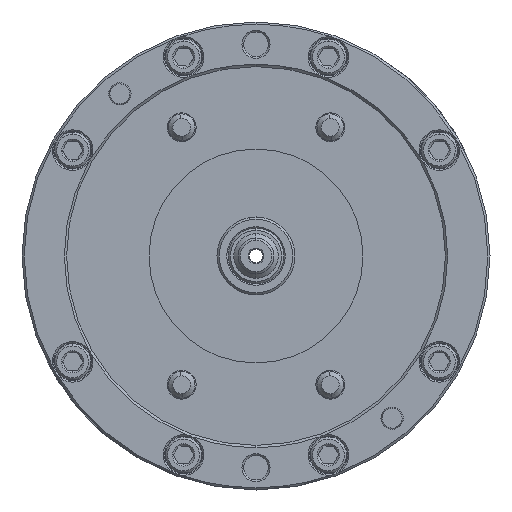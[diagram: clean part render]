
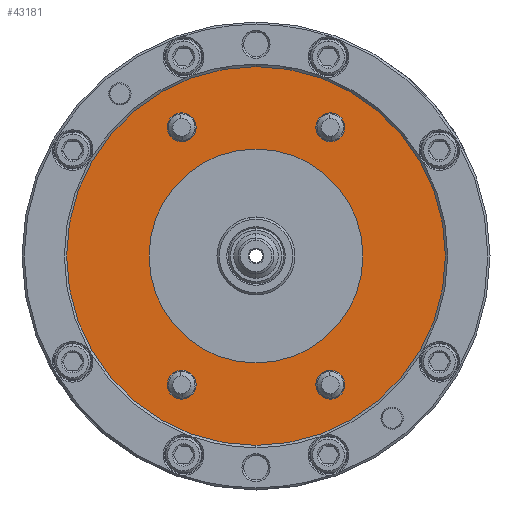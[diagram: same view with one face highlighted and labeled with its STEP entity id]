
A CAD part, left-side view. The second image highlights one B-rep face of the part: STEP entity #43181.
In plain terms, the highlighted planar face has unit normal (-1, 0, 0).
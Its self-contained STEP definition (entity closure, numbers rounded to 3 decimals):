
#607 = VERTEX_POINT ( 'NONE', #16837 ) ;
#1141 = CIRCLE ( 'NONE', #48762, 85. ) ;
#1155 = CIRCLE ( 'NONE', #9351, 6.5 ) ;
#1261 = EDGE_CURVE ( 'NONE', #33225, #3951, #21262, .T. ) ;
#1563 = CIRCLE ( 'NONE', #13519, 48. ) ;
#1982 = CIRCLE ( 'NONE', #25655, 6.5 ) ;
#2062 = EDGE_CURVE ( 'NONE', #3951, #33225, #15250, .T. ) ;
#2246 = ORIENTED_EDGE ( 'NONE', *, *, #1261, .T. ) ;
#2604 = DIRECTION ( 'NONE',  ( 0., 0., -1. ) ) ;
#3081 = CIRCLE ( 'NONE', #36701, 6.5 ) ;
#3915 = EDGE_LOOP ( 'NONE', ( #4488, #2246 ) ) ;
#3951 = VERTEX_POINT ( 'NONE', #26855 ) ;
#4043 = DIRECTION ( 'NONE',  ( 0., 0., -1. ) ) ;
#4315 = CARTESIAN_POINT ( 'NONE',  ( -115., 0., 0. ) ) ;
#4453 = VERTEX_POINT ( 'NONE', #27852 ) ;
#4488 = ORIENTED_EDGE ( 'NONE', *, *, #2062, .T. ) ;
#4805 = DIRECTION ( 'NONE',  ( 1., 0., 0. ) ) ;
#5188 = EDGE_CURVE ( 'NONE', #32202, #46140, #48760, .T. ) ;
#5518 = ORIENTED_EDGE ( 'NONE', *, *, #42587, .F. ) ;
#5922 = DIRECTION ( 'NONE',  ( 0., 0., 1. ) ) ;
#5981 = DIRECTION ( 'NONE',  ( 1., 0., 0. ) ) ;
#6230 = CARTESIAN_POINT ( 'NONE',  ( -115., 33.35, 57.764 ) ) ;
#6419 = ORIENTED_EDGE ( 'NONE', *, *, #16062, .F. ) ;
#7310 = DIRECTION ( 'NONE',  ( 1., 0., 0. ) ) ;
#7319 = EDGE_LOOP ( 'NONE', ( #8371, #7473 ) ) ;
#7473 = ORIENTED_EDGE ( 'NONE', *, *, #18546, .T. ) ;
#7714 = CARTESIAN_POINT ( 'NONE',  ( -115., -33.35, -51.264 ) ) ;
#8371 = ORIENTED_EDGE ( 'NONE', *, *, #10572, .T. ) ;
#8485 = CIRCLE ( 'NONE', #42634, 85. ) ;
#8744 = FACE_BOUND ( 'NONE', #48581, .T. ) ;
#9074 = ORIENTED_EDGE ( 'NONE', *, *, #16428, .T. ) ;
#9351 = AXIS2_PLACEMENT_3D ( 'NONE', #40951, #42808, #36857 ) ;
#9827 = CARTESIAN_POINT ( 'NONE',  ( -115., 0., 85. ) ) ;
#10007 = FACE_BOUND ( 'NONE', #3915, .T. ) ;
#10097 = VERTEX_POINT ( 'NONE', #11991 ) ;
#10377 = VERTEX_POINT ( 'NONE', #43190 ) ;
#10547 = EDGE_LOOP ( 'NONE', ( #41800, #40809 ) ) ;
#10572 = EDGE_CURVE ( 'NONE', #4453, #32651, #1155, .T. ) ;
#10725 = ORIENTED_EDGE ( 'NONE', *, *, #5188, .T. ) ;
#11097 = CIRCLE ( 'NONE', #11839, 6.5 ) ;
#11656 = ORIENTED_EDGE ( 'NONE', *, *, #27058, .T. ) ;
#11765 = AXIS2_PLACEMENT_3D ( 'NONE', #47474, #47044, #47315 ) ;
#11839 = AXIS2_PLACEMENT_3D ( 'NONE', #35282, #35221, #35177 ) ;
#11991 = CARTESIAN_POINT ( 'NONE',  ( -115., -33.35, -64.264 ) ) ;
#12267 = ORIENTED_EDGE ( 'NONE', *, *, #25238, .T. ) ;
#12705 = CARTESIAN_POINT ( 'NONE',  ( -115., 0., -85. ) ) ;
#13158 = AXIS2_PLACEMENT_3D ( 'NONE', #36313, #25181, #2604 ) ;
#13229 = VERTEX_POINT ( 'NONE', #9827 ) ;
#13519 = AXIS2_PLACEMENT_3D ( 'NONE', #16962, #43271, #20806 ) ;
#13787 = EDGE_CURVE ( 'NONE', #607, #10377, #43972, .T. ) ;
#14674 = CARTESIAN_POINT ( 'NONE',  ( -115., -33.35, 57.764 ) ) ;
#14846 = DIRECTION ( 'NONE',  ( 1., 0., 0. ) ) ;
#15250 = CIRCLE ( 'NONE', #16487, 6.5 ) ;
#15580 = CARTESIAN_POINT ( 'NONE',  ( -115., 33.35, -64.264 ) ) ;
#16062 = EDGE_CURVE ( 'NONE', #13229, #28033, #8485, .T. ) ;
#16428 = EDGE_CURVE ( 'NONE', #46140, #32202, #1982, .T. ) ;
#16487 = AXIS2_PLACEMENT_3D ( 'NONE', #33049, #33082, #33140 ) ;
#16837 = CARTESIAN_POINT ( 'NONE',  ( -115., 0., 48. ) ) ;
#16962 = CARTESIAN_POINT ( 'NONE',  ( -115., 0., 0. ) ) ;
#17605 = DIRECTION ( 'NONE',  ( 0., -0.866, 0.5 ) ) ;
#18546 = EDGE_CURVE ( 'NONE', #32651, #4453, #3081, .T. ) ;
#18792 = FACE_OUTER_BOUND ( 'NONE', #23112, .T. ) ;
#20806 = DIRECTION ( 'NONE',  ( 0., 0., -1. ) ) ;
#21262 = CIRCLE ( 'NONE', #11765, 6.5 ) ;
#21435 = PLANE ( 'NONE',  #13158 ) ;
#22945 = CIRCLE ( 'NONE', #38800, 6.5 ) ;
#23112 = EDGE_LOOP ( 'NONE', ( #6419, #5518 ) ) ;
#25035 = CARTESIAN_POINT ( 'NONE',  ( -115., -33.35, 64.264 ) ) ;
#25181 = DIRECTION ( 'NONE',  ( 1., 0., 0. ) ) ;
#25238 = EDGE_CURVE ( 'NONE', #10097, #47444, #22945, .T. ) ;
#25655 = AXIS2_PLACEMENT_3D ( 'NONE', #14674, #14846, #17605 ) ;
#26855 = CARTESIAN_POINT ( 'NONE',  ( -115., 33.35, -51.264 ) ) ;
#27058 = EDGE_CURVE ( 'NONE', #47444, #10097, #11097, .T. ) ;
#27161 = CARTESIAN_POINT ( 'NONE',  ( -115., 33.35, 51.264 ) ) ;
#27852 = CARTESIAN_POINT ( 'NONE',  ( -115., 33.35, 64.264 ) ) ;
#28033 = VERTEX_POINT ( 'NONE', #12705 ) ;
#29876 = CARTESIAN_POINT ( 'NONE',  ( -115., 0., 0. ) ) ;
#29975 = FACE_BOUND ( 'NONE', #7319, .T. ) ;
#32202 = VERTEX_POINT ( 'NONE', #48247 ) ;
#32520 = AXIS2_PLACEMENT_3D ( 'NONE', #4315, #4805, #4043 ) ;
#32651 = VERTEX_POINT ( 'NONE', #27161 ) ;
#33049 = CARTESIAN_POINT ( 'NONE',  ( -115., 33.35, -57.764 ) ) ;
#33082 = DIRECTION ( 'NONE',  ( 1., 0., 0. ) ) ;
#33140 = DIRECTION ( 'NONE',  ( 0., 0.866, -0.5 ) ) ;
#33225 = VERTEX_POINT ( 'NONE', #15580 ) ;
#33694 = DIRECTION ( 'NONE',  ( 0., 0., 1. ) ) ;
#34255 = DIRECTION ( 'NONE',  ( 0., -0.866, 0.5 ) ) ;
#34624 = DIRECTION ( 'NONE',  ( 1., 0., 0. ) ) ;
#34744 = CARTESIAN_POINT ( 'NONE',  ( -115., -33.35, 57.764 ) ) ;
#35177 = DIRECTION ( 'NONE',  ( 0., 0., -1. ) ) ;
#35221 = DIRECTION ( 'NONE',  ( 1., 0., 0. ) ) ;
#35282 = CARTESIAN_POINT ( 'NONE',  ( -115., -33.35, -57.764 ) ) ;
#35840 = EDGE_LOOP ( 'NONE', ( #12267, #11656 ) ) ;
#36168 = DIRECTION ( 'NONE',  ( 0., 0., -1. ) ) ;
#36199 = DIRECTION ( 'NONE',  ( 1., 0., 0. ) ) ;
#36254 = CARTESIAN_POINT ( 'NONE',  ( -115., -33.35, -57.764 ) ) ;
#36313 = CARTESIAN_POINT ( 'NONE',  ( -115., -105., 0. ) ) ;
#36701 = AXIS2_PLACEMENT_3D ( 'NONE', #6230, #5981, #5922 ) ;
#36857 = DIRECTION ( 'NONE',  ( 0., 0., 1. ) ) ;
#37215 = AXIS2_PLACEMENT_3D ( 'NONE', #34744, #34624, #34255 ) ;
#37616 = FACE_BOUND ( 'NONE', #10547, .T. ) ;
#38800 = AXIS2_PLACEMENT_3D ( 'NONE', #36254, #36199, #36168 ) ;
#40809 = ORIENTED_EDGE ( 'NONE', *, *, #13787, .T. ) ;
#40951 = CARTESIAN_POINT ( 'NONE',  ( -115., 33.35, 57.764 ) ) ;
#41800 = ORIENTED_EDGE ( 'NONE', *, *, #44533, .T. ) ;
#42587 = EDGE_CURVE ( 'NONE', #28033, #13229, #1141, .T. ) ;
#42634 = AXIS2_PLACEMENT_3D ( 'NONE', #47495, #47403, #46758 ) ;
#42808 = DIRECTION ( 'NONE',  ( 1., 0., 0. ) ) ;
#43181 = ADVANCED_FACE ( 'NONE', ( #10007, #18792, #29975, #8744, #47651, #37616 ), #21435, .F. ) ;
#43190 = CARTESIAN_POINT ( 'NONE',  ( -115., 0., -48. ) ) ;
#43271 = DIRECTION ( 'NONE',  ( 1., 0., 0. ) ) ;
#43972 = CIRCLE ( 'NONE', #32520, 48. ) ;
#44533 = EDGE_CURVE ( 'NONE', #10377, #607, #1563, .T. ) ;
#46140 = VERTEX_POINT ( 'NONE', #25035 ) ;
#46758 = DIRECTION ( 'NONE',  ( 0., 0., 1. ) ) ;
#47044 = DIRECTION ( 'NONE',  ( 1., 0., 0. ) ) ;
#47315 = DIRECTION ( 'NONE',  ( 0., 0.866, -0.5 ) ) ;
#47403 = DIRECTION ( 'NONE',  ( 1., 0., 0. ) ) ;
#47444 = VERTEX_POINT ( 'NONE', #7714 ) ;
#47474 = CARTESIAN_POINT ( 'NONE',  ( -115., 33.35, -57.764 ) ) ;
#47495 = CARTESIAN_POINT ( 'NONE',  ( -115., 0., 0. ) ) ;
#47651 = FACE_BOUND ( 'NONE', #35840, .T. ) ;
#48247 = CARTESIAN_POINT ( 'NONE',  ( -115., -33.35, 51.264 ) ) ;
#48581 = EDGE_LOOP ( 'NONE', ( #10725, #9074 ) ) ;
#48760 = CIRCLE ( 'NONE', #37215, 6.5 ) ;
#48762 = AXIS2_PLACEMENT_3D ( 'NONE', #29876, #7310, #33694 ) ;
